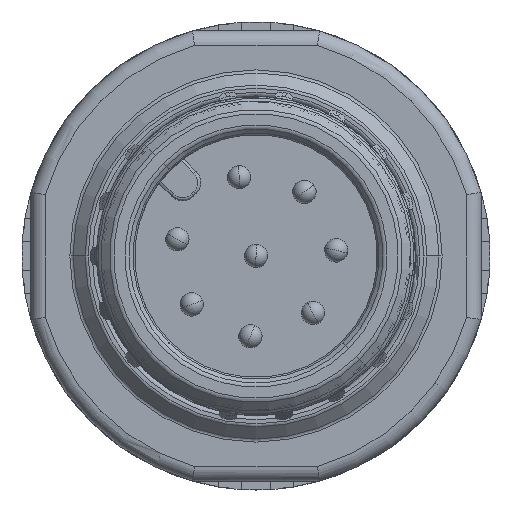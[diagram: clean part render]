
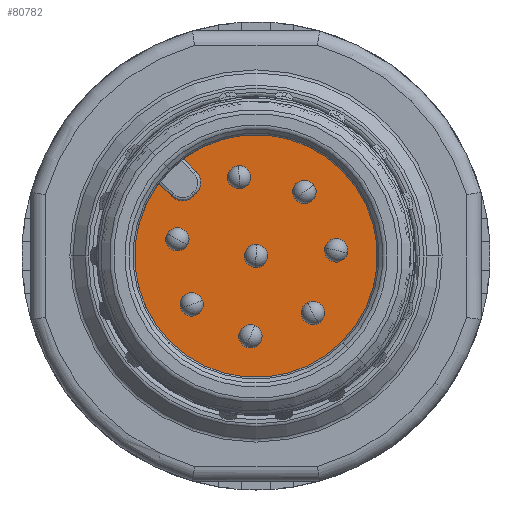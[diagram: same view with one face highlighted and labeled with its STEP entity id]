
A CAD part, left-side view. The second image highlights one B-rep face of the part: STEP entity #80782.
In plain terms, the highlighted planar face has unit normal (-1, 0, 0).
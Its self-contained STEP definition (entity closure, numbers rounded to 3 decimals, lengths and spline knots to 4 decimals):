
#2334=CARTESIAN_POINT('',(8.9,0.,0.));
#2335=DIRECTION('',(-1.,0.,0.));
#2336=DIRECTION('',(0.,-0.707,0.707));
#2337=AXIS2_PLACEMENT_3D('',#2334,#2335,#2336);
#2339=CARTESIAN_POINT('',(8.9,0.,0.));
#2340=DIRECTION('',(-1.,0.,0.));
#2341=DIRECTION('',(0.,0.707,-0.707));
#2342=AXIS2_PLACEMENT_3D('',#2339,#2340,#2341);
#2344=CARTESIAN_POINT('',(8.9,0.,0.));
#2345=DIRECTION('',(-1.,0.,0.));
#2346=DIRECTION('',(0.,0.802,0.597));
#2347=AXIS2_PLACEMENT_3D('',#2344,#2345,#2346);
#2349=DIRECTION('',(0.,0.707,0.707));
#2350=VECTOR('',#2349,0.6064);
#2351=CARTESIAN_POINT('',(8.9,2.8991,2.0506));
#2352=LINE('',#2351,#2350);
#2353=CARTESIAN_POINT('',(8.9,2.5102,2.4395));
#2354=DIRECTION('',(1.,0.,0.));
#2355=DIRECTION('',(0.,-0.707,-0.707));
#2356=AXIS2_PLACEMENT_3D('',#2353,#2354,#2355);
#2358=DIRECTION('',(0.,0.707,-0.707));
#2359=VECTOR('',#2358,0.1);
#2360=CARTESIAN_POINT('',(8.9,2.0506,2.1213));
#2361=LINE('',#2360,#2359);
#2362=CARTESIAN_POINT('',(8.9,2.4395,2.5102));
#2363=DIRECTION('',(1.,0.,0.));
#2364=DIRECTION('',(0.,-0.707,0.707));
#2365=AXIS2_PLACEMENT_3D('',#2362,#2363,#2364);
#2367=DIRECTION('',(0.,-0.707,-0.707));
#2368=VECTOR('',#2367,0.6064);
#2369=CARTESIAN_POINT('',(8.9,2.4794,3.3279));
#2370=LINE('',#2369,#2368);
#2371=CARTESIAN_POINT('',(8.9,0.,0.));
#2372=DIRECTION('',(-1.,0.,0.));
#2373=DIRECTION('',(0.,0.039,-0.999));
#2374=AXIS2_PLACEMENT_3D('',#2371,#2372,#2373);
#2376=CARTESIAN_POINT('',(8.9,0.,0.));
#2377=DIRECTION('',(-1.,0.,0.));
#2378=DIRECTION('',(0.,-0.039,0.999));
#2379=AXIS2_PLACEMENT_3D('',#2376,#2377,#2378);
#2381=CARTESIAN_POINT('',(8.9,0.5718,2.6899));
#2382=DIRECTION('',(-1.,0.,0.));
#2383=DIRECTION('',(0.,0.087,0.996));
#2384=AXIS2_PLACEMENT_3D('',#2381,#2382,#2383);
#2386=CARTESIAN_POINT('',(8.9,0.5718,2.6899));
#2387=DIRECTION('',(-1.,0.,0.));
#2388=DIRECTION('',(0.,-0.087,-0.996));
#2389=AXIS2_PLACEMENT_3D('',#2386,#2387,#2388);
#2391=CARTESIAN_POINT('',(8.9,-1.655,2.1962));
#2392=DIRECTION('',(-1.,0.,0.));
#2393=DIRECTION('',(0.,-0.809,0.588));
#2394=AXIS2_PLACEMENT_3D('',#2391,#2392,#2393);
#2396=CARTESIAN_POINT('',(8.9,-1.655,2.1962));
#2397=DIRECTION('',(-1.,0.,0.));
#2398=DIRECTION('',(0.,0.809,-0.588));
#2399=AXIS2_PLACEMENT_3D('',#2396,#2397,#2398);
#2401=CARTESIAN_POINT('',(8.9,-2.7433,0.1918));
#2402=DIRECTION('',(-1.,0.,0.));
#2403=DIRECTION('',(0.,-0.974,-0.225));
#2404=AXIS2_PLACEMENT_3D('',#2401,#2402,#2403);
#2406=CARTESIAN_POINT('',(8.9,-2.7433,0.1918));
#2407=DIRECTION('',(-1.,0.,0.));
#2408=DIRECTION('',(0.,0.974,0.225));
#2409=AXIS2_PLACEMENT_3D('',#2406,#2407,#2408);
#2411=CARTESIAN_POINT('',(8.9,-1.9445,-1.9445));
#2412=DIRECTION('',(-1.,0.,0.));
#2413=DIRECTION('',(0.,-0.469,-0.883));
#2414=AXIS2_PLACEMENT_3D('',#2411,#2412,#2413);
#2416=CARTESIAN_POINT('',(8.9,-1.9445,-1.9445));
#2417=DIRECTION('',(-1.,0.,0.));
#2418=DIRECTION('',(0.,0.469,0.883));
#2419=AXIS2_PLACEMENT_3D('',#2416,#2417,#2418);
#2421=CARTESIAN_POINT('',(8.9,0.1918,-2.7433));
#2422=DIRECTION('',(-1.,0.,0.));
#2423=DIRECTION('',(0.,0.358,-0.934));
#2424=AXIS2_PLACEMENT_3D('',#2421,#2422,#2423);
#2426=CARTESIAN_POINT('',(8.9,0.1918,-2.7433));
#2427=DIRECTION('',(-1.,0.,0.));
#2428=DIRECTION('',(0.,-0.358,0.934));
#2429=AXIS2_PLACEMENT_3D('',#2426,#2427,#2428);
#2431=CARTESIAN_POINT('',(8.9,2.1962,-1.655));
#2432=DIRECTION('',(-1.,0.,0.));
#2433=DIRECTION('',(0.,0.94,-0.342));
#2434=AXIS2_PLACEMENT_3D('',#2431,#2432,#2433);
#2436=CARTESIAN_POINT('',(8.9,2.1962,-1.655));
#2437=DIRECTION('',(-1.,0.,0.));
#2438=DIRECTION('',(0.,-0.94,0.342));
#2439=AXIS2_PLACEMENT_3D('',#2436,#2437,#2438);
#2441=CARTESIAN_POINT('',(8.9,2.6899,0.5718));
#2442=DIRECTION('',(-1.,0.,0.));
#2443=DIRECTION('',(0.,0.875,0.485));
#2444=AXIS2_PLACEMENT_3D('',#2441,#2442,#2443);
#2446=CARTESIAN_POINT('',(8.9,2.6899,0.5718));
#2447=DIRECTION('',(-1.,0.,0.));
#2448=DIRECTION('',(0.,-0.875,-0.485));
#2449=AXIS2_PLACEMENT_3D('',#2446,#2447,#2448);
#67641=CARTESIAN_POINT('',(8.9,2.0506,2.8991));
#67643=VERTEX_POINT('',#67641);
#67647=CARTESIAN_POINT('',(8.9,2.4794,3.3279));
#67648=VERTEX_POINT('',#67647);
#67653=CARTESIAN_POINT('',(8.9,2.8991,2.0506));
#67654=VERTEX_POINT('',#67653);
#67655=CARTESIAN_POINT('',(8.9,3.3279,2.4794));
#67656=VERTEX_POINT('',#67655);
#67842=CARTESIAN_POINT('',(8.9,2.9345,-2.9345));
#67843=CARTESIAN_POINT('',(8.9,-2.9345,2.9345));
#67844=VERTEX_POINT('',#67842);
#67845=VERTEX_POINT('',#67843);
#67846=CARTESIAN_POINT('',(8.9,2.1213,2.0506));
#67847=VERTEX_POINT('',#67846);
#67848=CARTESIAN_POINT('',(8.9,2.0506,2.1213));
#67849=VERTEX_POINT('',#67848);
#71074=CARTESIAN_POINT('',(8.9,0.0157,-0.3997));
#71075=CARTESIAN_POINT('',(8.9,-0.0157,0.3997));
#71076=VERTEX_POINT('',#71074);
#71077=VERTEX_POINT('',#71075);
#71084=CARTESIAN_POINT('',(8.9,0.6066,3.0884));
#71085=CARTESIAN_POINT('',(8.9,0.5369,2.2914));
#71086=VERTEX_POINT('',#71084);
#71087=VERTEX_POINT('',#71085);
#71094=CARTESIAN_POINT('',(8.9,-1.9786,2.4314));
#71095=CARTESIAN_POINT('',(8.9,-1.3314,1.9611));
#71096=VERTEX_POINT('',#71094);
#71097=VERTEX_POINT('',#71095);
#71104=CARTESIAN_POINT('',(8.9,-3.133,0.1018));
#71105=CARTESIAN_POINT('',(8.9,-2.3536,0.2818));
#71106=VERTEX_POINT('',#71104);
#71107=VERTEX_POINT('',#71105);
#71114=CARTESIAN_POINT('',(8.9,-2.1323,-2.2977));
#71115=CARTESIAN_POINT('',(8.9,-1.7568,-1.5914));
#71116=VERTEX_POINT('',#71114);
#71117=VERTEX_POINT('',#71115);
#71124=CARTESIAN_POINT('',(8.9,0.3352,-3.1167));
#71125=CARTESIAN_POINT('',(8.9,0.0485,-2.3699));
#71126=VERTEX_POINT('',#71124);
#71127=VERTEX_POINT('',#71125);
#71134=CARTESIAN_POINT('',(8.9,2.5721,-1.7918));
#71135=CARTESIAN_POINT('',(8.9,1.8204,-1.5182));
#71136=VERTEX_POINT('',#71134);
#71137=VERTEX_POINT('',#71135);
#71144=CARTESIAN_POINT('',(8.9,3.0398,0.7657));
#71145=CARTESIAN_POINT('',(8.9,2.3401,0.3778));
#71146=VERTEX_POINT('',#71144);
#71147=VERTEX_POINT('',#71145);
#80716=CARTESIAN_POINT('',(8.9,1.8656,3.1285));
#80717=DIRECTION('',(-1.,0.,0.));
#80718=DIRECTION('',(0.,1.,0.));
#80719=AXIS2_PLACEMENT_3D('',#80716,#80717,#80718);
#80720=PLANE('',#80719);
#80721=ORIENTED_EDGE('',*,*,#80598,.F.);
#80723=ORIENTED_EDGE('',*,*,#80722,.F.);
#80724=ORIENTED_EDGE('',*,*,#80591,.F.);
#80725=ORIENTED_EDGE('',*,*,#80621,.F.);
#80727=ORIENTED_EDGE('',*,*,#80726,.F.);
#80729=ORIENTED_EDGE('',*,*,#80728,.F.);
#80730=ORIENTED_EDGE('',*,*,#80695,.F.);
#80731=ORIENTED_EDGE('',*,*,#80707,.F.);
#80732=EDGE_LOOP('',(#80721,#80723,#80724,#80725,#80727,#80729,#80730,#80731));
#80733=FACE_OUTER_BOUND('',#80732,.F.);
#80735=ORIENTED_EDGE('',*,*,#80734,.T.);
#80737=ORIENTED_EDGE('',*,*,#80736,.T.);
#80738=EDGE_LOOP('',(#80735,#80737));
#80739=FACE_BOUND('',#80738,.F.);
#80741=ORIENTED_EDGE('',*,*,#80740,.T.);
#80743=ORIENTED_EDGE('',*,*,#80742,.T.);
#80744=EDGE_LOOP('',(#80741,#80743));
#80745=FACE_BOUND('',#80744,.F.);
#80747=ORIENTED_EDGE('',*,*,#80746,.T.);
#80749=ORIENTED_EDGE('',*,*,#80748,.T.);
#80750=EDGE_LOOP('',(#80747,#80749));
#80751=FACE_BOUND('',#80750,.F.);
#80753=ORIENTED_EDGE('',*,*,#80752,.T.);
#80755=ORIENTED_EDGE('',*,*,#80754,.T.);
#80756=EDGE_LOOP('',(#80753,#80755));
#80757=FACE_BOUND('',#80756,.F.);
#80759=ORIENTED_EDGE('',*,*,#80758,.T.);
#80761=ORIENTED_EDGE('',*,*,#80760,.T.);
#80762=EDGE_LOOP('',(#80759,#80761));
#80763=FACE_BOUND('',#80762,.F.);
#80765=ORIENTED_EDGE('',*,*,#80764,.T.);
#80767=ORIENTED_EDGE('',*,*,#80766,.T.);
#80768=EDGE_LOOP('',(#80765,#80767));
#80769=FACE_BOUND('',#80768,.F.);
#80771=ORIENTED_EDGE('',*,*,#80770,.T.);
#80773=ORIENTED_EDGE('',*,*,#80772,.T.);
#80774=EDGE_LOOP('',(#80771,#80773));
#80775=FACE_BOUND('',#80774,.F.);
#80777=ORIENTED_EDGE('',*,*,#80776,.T.);
#80779=ORIENTED_EDGE('',*,*,#80778,.T.);
#80780=EDGE_LOOP('',(#80777,#80779));
#80781=FACE_BOUND('',#80780,.F.);
#80782=ADVANCED_FACE('',(#80733,#80739,#80745,#80751,#80757,#80763,#80769,
#80775,#80781),#80720,.T.);
#2338=CIRCLE('',#2337,4.15);
#2343=CIRCLE('',#2342,4.15);
#2348=CIRCLE('',#2347,4.15);
#2357=CIRCLE('',#2356,0.55);
#2366=CIRCLE('',#2365,0.55);
#2375=CIRCLE('',#2374,0.4);
#2380=CIRCLE('',#2379,0.4);
#2385=CIRCLE('',#2384,0.4);
#2390=CIRCLE('',#2389,0.4);
#2395=CIRCLE('',#2394,0.4);
#2400=CIRCLE('',#2399,0.4);
#2405=CIRCLE('',#2404,0.4);
#2410=CIRCLE('',#2409,0.4);
#2415=CIRCLE('',#2414,0.4);
#2420=CIRCLE('',#2419,0.4);
#2425=CIRCLE('',#2424,0.4);
#2430=CIRCLE('',#2429,0.4);
#2435=CIRCLE('',#2434,0.4);
#2440=CIRCLE('',#2439,0.4);
#2445=CIRCLE('',#2444,0.4);
#2450=CIRCLE('',#2449,0.4);
#80591=EDGE_CURVE('',#67656,#67844,#2348,.T.);
#80598=EDGE_CURVE('',#67845,#67648,#2338,.T.);
#80621=EDGE_CURVE('',#67654,#67656,#2352,.T.);
#80695=EDGE_CURVE('',#67643,#67849,#2366,.T.);
#80707=EDGE_CURVE('',#67648,#67643,#2370,.T.);
#80722=EDGE_CURVE('',#67844,#67845,#2343,.T.);
#80726=EDGE_CURVE('',#67847,#67654,#2357,.T.);
#80728=EDGE_CURVE('',#67849,#67847,#2361,.T.);
#80734=EDGE_CURVE('',#71076,#71077,#2375,.T.);
#80736=EDGE_CURVE('',#71077,#71076,#2380,.T.);
#80740=EDGE_CURVE('',#71086,#71087,#2385,.T.);
#80742=EDGE_CURVE('',#71087,#71086,#2390,.T.);
#80746=EDGE_CURVE('',#71096,#71097,#2395,.T.);
#80748=EDGE_CURVE('',#71097,#71096,#2400,.T.);
#80752=EDGE_CURVE('',#71106,#71107,#2405,.T.);
#80754=EDGE_CURVE('',#71107,#71106,#2410,.T.);
#80758=EDGE_CURVE('',#71116,#71117,#2415,.T.);
#80760=EDGE_CURVE('',#71117,#71116,#2420,.T.);
#80764=EDGE_CURVE('',#71126,#71127,#2425,.T.);
#80766=EDGE_CURVE('',#71127,#71126,#2430,.T.);
#80770=EDGE_CURVE('',#71136,#71137,#2435,.T.);
#80772=EDGE_CURVE('',#71137,#71136,#2440,.T.);
#80776=EDGE_CURVE('',#71146,#71147,#2445,.T.);
#80778=EDGE_CURVE('',#71147,#71146,#2450,.T.);
